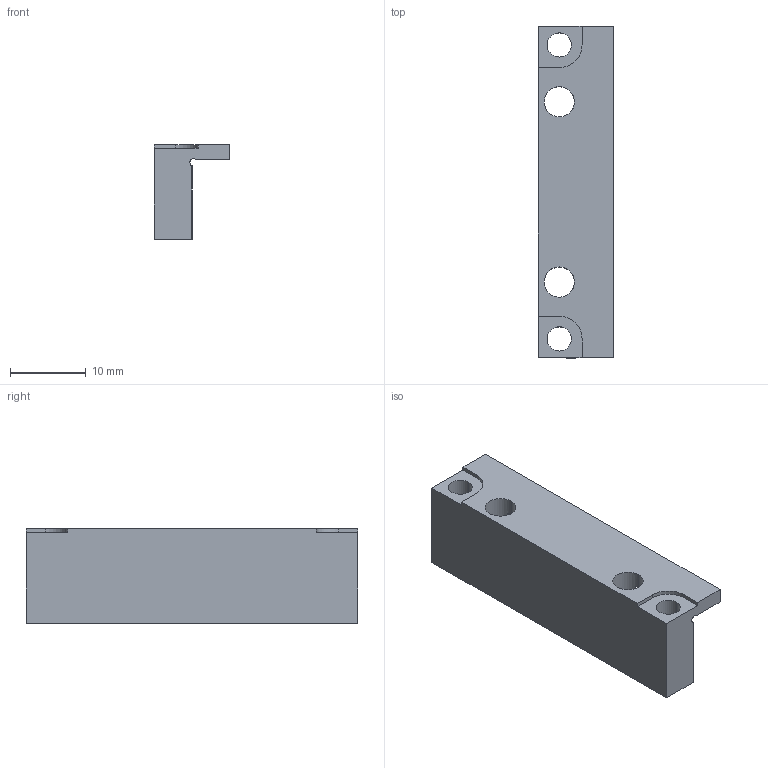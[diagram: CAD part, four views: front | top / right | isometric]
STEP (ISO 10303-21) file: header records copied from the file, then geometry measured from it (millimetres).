
FILE_DESCRIPTION (( 'STEP AP203' ), '1' );
FILE_NAME ('upperholder_lid.step', '2026-06-05T03:32:57', ( '' ), ( '' ), 'SwSTEP 2.0', 'SolidWorks 2024', '' );
FILE_SCHEMA (( 'CONFIG_CONTROL_DESIGN' ));
Length unit declared in the file: millimetre
Products named in the file (1): upperholder_lid
Bounding box: 10 x 43.8 x 12.5 mm (x, y, z)
Volume: 2627.4 mm3; surface area: 2601.7 mm2
Topology: 1 solids, 1 shells, 25 faces, 75 edges, 50 vertices
Faces by surface type: plane 14, cylinder 11
Entity records: 1004 total; most frequent: CARTESIAN_POINT 211, ORIENTED_EDGE 150, DIRECTION 145, EDGE_CURVE 75, VERTEX_POINT 50, LINE 49, VECTOR 49, AXIS2_PLACEMENT_3D 48
